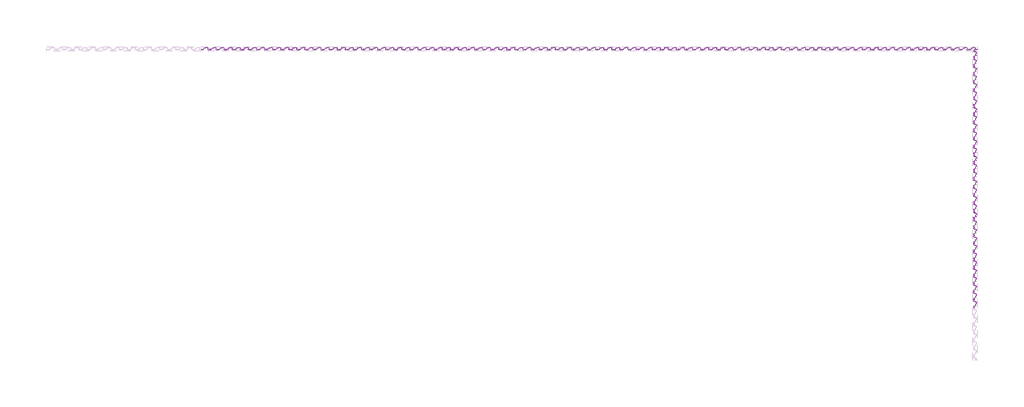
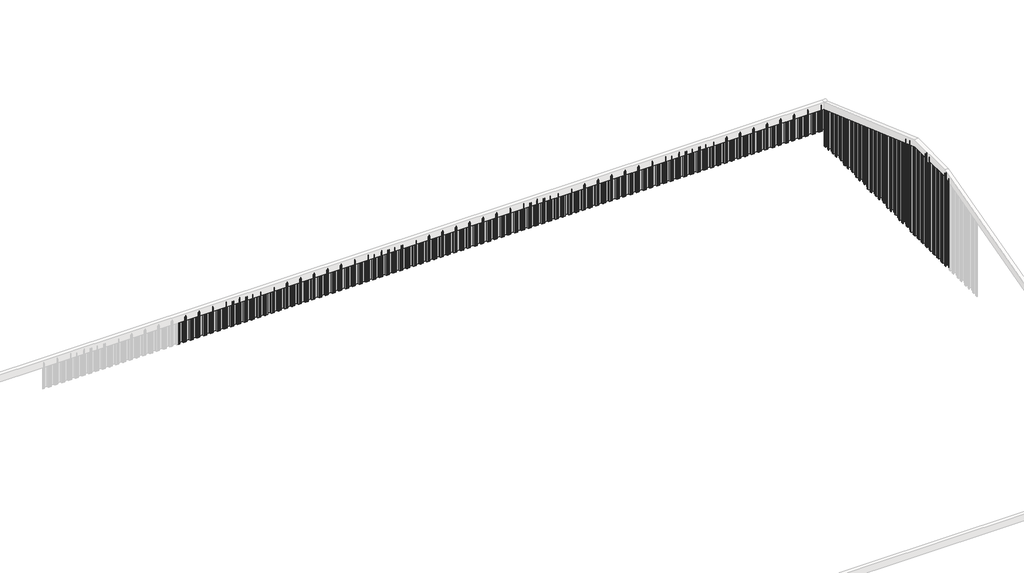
# One storey, part 6 of 6: 128 proxies.
"""IFC4 building model written with IfcOpenShell, lengths in millimetres."""

from ifc_helpers import new_model, si_unit, origin, place, context, project, spatial, transform, mapped, element, save
from components import generic_models_7553901d, generic_models_a74f638f, generic_models_eddb28b0, generic_models_b851e550, generic_models_f981eec5, generic_models_fa2cd2e8, generic_models_5c6d3e61, generic_models_5d25678b, generic_models_d380ba2e, generic_models_831c492c, generic_models_77be9fe8, generic_models_16d24312, generic_models_3141a809, generic_models_ca3dce07, generic_models_dd665d03, generic_models_896a7e0f

model = new_model("IFC4")

# Units and contexts
model_context = context("Model", 3, world=origin())
ifc_project = project(units=[si_unit("LENGTHUNIT", "METRE", prefix="MILLI")], contexts=[model_context])

# Site, building, storey
site = spatial("IfcSite", under=ifc_project)
building = spatial("IfcBuilding", under=site)
storey = spatial("IfcBuildingStorey", under=building, Name="矢板", Elevation=0.0)

# Proxies
placement = place(None, origin())
generic_models_shape = generic_models_7553901d(model_context)
element("IfcBuildingElementProxy", 1, Name="鋼矢板10H型 : 鋼矢板10H型", ObjectType="鋼矢板10H型 : 鋼矢板10H型", at=placement, inside=storey, context=model_context, shape_type="MappedRepresentation", body=[
    mapped(generic_models_shape, transform((148297.5, 28702.0, 7600.0), x_axis=(1.0, 0.0, 0.0), y_axis=(0.0, 1.0, 0.0), z_axis=(0.0, 0.0, 1.0))),
])
element("IfcBuildingElementProxy", 2, Name="鋼矢板10H型 : 鋼矢板10H型", ObjectType="鋼矢板10H型 : 鋼矢板10H型", at=placement, inside=storey, context=model_context, shape_type="MappedRepresentation", body=[
    mapped(generic_models_shape, transform((147397.5, 28702.0, 7600.0), x_axis=(1.0, 0.0, 0.0), y_axis=(0.0, 1.0, 0.0), z_axis=(0.0, 0.0, 1.0))),
])
element("IfcBuildingElementProxy", 3, Name="鋼矢板10H型 : 鋼矢板10H型", ObjectType="鋼矢板10H型 : 鋼矢板10H型", at=placement, inside=storey, context=model_context, shape_type="MappedRepresentation", body=[
    mapped(generic_models_shape, transform((146497.5, 28702.0, 7600.0), x_axis=(1.0, 0.0, 0.0), y_axis=(0.0, 1.0, 0.0), z_axis=(0.0, 0.0, 1.0))),
])
element("IfcBuildingElementProxy", 4, Name="鋼矢板10H型 : 鋼矢板10H型", ObjectType="鋼矢板10H型 : 鋼矢板10H型", at=placement, inside=storey, context=model_context, shape_type="MappedRepresentation", body=[
    mapped(generic_models_shape, transform((145597.5, 28702.0, 7600.0), x_axis=(1.0, 0.0, 0.0), y_axis=(0.0, 1.0, 0.0), z_axis=(0.0, 0.0, 1.0))),
])
element("IfcBuildingElementProxy", 5, Name="鋼矢板10H型 : 鋼矢板10H型", ObjectType="鋼矢板10H型 : 鋼矢板10H型", at=placement, inside=storey, context=model_context, shape_type="MappedRepresentation", body=[
    mapped(generic_models_shape, transform((144697.5, 28702.0, 7600.0), x_axis=(1.0, 0.0, 0.0), y_axis=(0.0, 1.0, 0.0), z_axis=(0.0, 0.0, 1.0))),
])
element("IfcBuildingElementProxy", 6, Name="鋼矢板10H型 : 鋼矢板10H型", ObjectType="鋼矢板10H型 : 鋼矢板10H型", at=placement, inside=storey, context=model_context, shape_type="MappedRepresentation", body=[
    mapped(generic_models_shape, transform((143797.5, 28702.0, 7600.0), x_axis=(1.0, 0.0, 0.0), y_axis=(0.0, 1.0, 0.0), z_axis=(0.0, 0.0, 1.0))),
])
element("IfcBuildingElementProxy", 7, Name="鋼矢板10H型 : 鋼矢板10H型", ObjectType="鋼矢板10H型 : 鋼矢板10H型", at=placement, inside=storey, context=model_context, shape_type="MappedRepresentation", body=[
    mapped(generic_models_shape, transform((142897.5, 28702.0, 7600.0), x_axis=(1.0, 0.0, 0.0), y_axis=(0.0, 1.0, 0.0), z_axis=(0.0, 0.0, 1.0))),
])
element("IfcBuildingElementProxy", 8, Name="鋼矢板10H型 : 鋼矢板10H型", ObjectType="鋼矢板10H型 : 鋼矢板10H型", at=placement, inside=storey, context=model_context, shape_type="MappedRepresentation", body=[
    mapped(generic_models_shape, transform((141997.5, 28702.0, 7600.0), x_axis=(1.0, 0.0, 0.0), y_axis=(0.0, 1.0, 0.0), z_axis=(0.0, 0.0, 1.0))),
])
element("IfcBuildingElementProxy", 9, Name="鋼矢板10H型 : 鋼矢板10H型", ObjectType="鋼矢板10H型 : 鋼矢板10H型", at=placement, inside=storey, context=model_context, shape_type="MappedRepresentation", body=[
    mapped(generic_models_shape, transform((141097.5, 28702.0, 7600.0), x_axis=(1.0, 0.0, 0.0), y_axis=(0.0, 1.0, 0.0), z_axis=(0.0, 0.0, 1.0))),
])
element("IfcBuildingElementProxy", 10, Name="鋼矢板10H型 : 鋼矢板10H型", ObjectType="鋼矢板10H型 : 鋼矢板10H型", at=placement, inside=storey, context=model_context, shape_type="MappedRepresentation", body=[
    mapped(generic_models_shape, transform((140197.5, 28702.0, 7600.0), x_axis=(1.0, 0.0, 0.0), y_axis=(0.0, 1.0, 0.0), z_axis=(0.0, 0.0, 1.0))),
])
element("IfcBuildingElementProxy", 11, Name="鋼矢板10H型 : 鋼矢板10H型", ObjectType="鋼矢板10H型 : 鋼矢板10H型", at=placement, inside=storey, context=model_context, shape_type="MappedRepresentation", body=[
    mapped(generic_models_shape, transform((139297.5, 28702.0, 7600.0), x_axis=(1.0, 0.0, 0.0), y_axis=(0.0, 1.0, 0.0), z_axis=(0.0, 0.0, 1.0))),
])
element("IfcBuildingElementProxy", 12, Name="鋼矢板10H型 : 鋼矢板10H型", ObjectType="鋼矢板10H型 : 鋼矢板10H型", at=placement, inside=storey, context=model_context, shape_type="MappedRepresentation", body=[
    mapped(generic_models_shape, transform((138397.5, 28702.0, 7600.0), x_axis=(1.0, 0.0, 0.0), y_axis=(0.0, 1.0, 0.0), z_axis=(0.0, 0.0, 1.0))),
])
element("IfcBuildingElementProxy", 13, Name="鋼矢板10H型 : 鋼矢板10H型", ObjectType="鋼矢板10H型 : 鋼矢板10H型", at=placement, inside=storey, context=model_context, shape_type="MappedRepresentation", body=[
    mapped(generic_models_shape, transform((137497.5, 28702.0, 7600.0), x_axis=(1.0, 0.0, 0.0), y_axis=(0.0, 1.0, 0.0), z_axis=(0.0, 0.0, 1.0))),
])
element("IfcBuildingElementProxy", 14, Name="鋼矢板10H型 : 鋼矢板10H型", ObjectType="鋼矢板10H型 : 鋼矢板10H型", at=placement, inside=storey, context=model_context, shape_type="MappedRepresentation", body=[
    mapped(generic_models_shape, transform((136597.5, 28702.0, 7600.0), x_axis=(1.0, 0.0, 0.0), y_axis=(0.0, 1.0, 0.0), z_axis=(0.0, 0.0, 1.0))),
])
element("IfcBuildingElementProxy", 15, Name="鋼矢板10H型 : 鋼矢板10H型", ObjectType="鋼矢板10H型 : 鋼矢板10H型", at=placement, inside=storey, context=model_context, shape_type="MappedRepresentation", body=[
    mapped(generic_models_shape, transform((135697.5, 28702.0, 7600.0), x_axis=(1.0, 0.0, 0.0), y_axis=(0.0, 1.0, 0.0), z_axis=(0.0, 0.0, 1.0))),
])
element("IfcBuildingElementProxy", 16, Name="鋼矢板10H型 : 鋼矢板10H型", ObjectType="鋼矢板10H型 : 鋼矢板10H型", at=placement, inside=storey, context=model_context, shape_type="MappedRepresentation", body=[
    mapped(generic_models_shape, transform((134797.5, 28702.0, 7600.0), x_axis=(1.0, 0.0, 0.0), y_axis=(0.0, 1.0, 0.0), z_axis=(0.0, 0.0, 1.0))),
])
element("IfcBuildingElementProxy", 17, Name="鋼矢板10H型 : 鋼矢板10H型", ObjectType="鋼矢板10H型 : 鋼矢板10H型", at=placement, inside=storey, context=model_context, shape_type="MappedRepresentation", body=[
    mapped(generic_models_shape, transform((133897.5, 28702.0, 7600.0), x_axis=(1.0, 0.0, 0.0), y_axis=(0.0, 1.0, 0.0), z_axis=(0.0, 0.0, 1.0))),
])
element("IfcBuildingElementProxy", 18, Name="鋼矢板10H型 : 鋼矢板10H型", ObjectType="鋼矢板10H型 : 鋼矢板10H型", at=placement, inside=storey, context=model_context, shape_type="MappedRepresentation", body=[
    mapped(generic_models_shape, transform((132997.5, 28702.0, 7600.0), x_axis=(1.0, 0.0, 0.0), y_axis=(0.0, 1.0, 0.0), z_axis=(0.0, 0.0, 1.0))),
])
element("IfcBuildingElementProxy", 19, Name="鋼矢板10H型 : 鋼矢板10H型", ObjectType="鋼矢板10H型 : 鋼矢板10H型", at=placement, inside=storey, context=model_context, shape_type="MappedRepresentation", body=[
    mapped(generic_models_shape, transform((132097.5, 28702.0, 7600.0), x_axis=(1.0, 0.0, 0.0), y_axis=(0.0, 1.0, 0.0), z_axis=(0.0, 0.0, 1.0))),
])
element("IfcBuildingElementProxy", 20, Name="鋼矢板10H型 : 鋼矢板10H型", ObjectType="鋼矢板10H型 : 鋼矢板10H型", at=placement, inside=storey, context=model_context, shape_type="MappedRepresentation", body=[
    mapped(generic_models_shape, transform((131197.5, 28702.0, 7600.0), x_axis=(1.0, 0.0, 0.0), y_axis=(0.0, 1.0, 0.0), z_axis=(0.0, 0.0, 1.0))),
])
element("IfcBuildingElementProxy", 21, Name="鋼矢板10H型 : 鋼矢板10H型", ObjectType="鋼矢板10H型 : 鋼矢板10H型", at=placement, inside=storey, context=model_context, shape_type="MappedRepresentation", body=[
    mapped(generic_models_shape, transform((130297.5, 28702.0, 7600.0), x_axis=(1.0, 0.0, 0.0), y_axis=(0.0, 1.0, 0.0), z_axis=(0.0, 0.0, 1.0))),
])
element("IfcBuildingElementProxy", 22, Name="鋼矢板10H型 : 鋼矢板10H型", ObjectType="鋼矢板10H型 : 鋼矢板10H型", at=placement, inside=storey, context=model_context, shape_type="MappedRepresentation", body=[
    mapped(generic_models_shape, transform((129397.5, 28702.0, 7600.0), x_axis=(1.0, 0.0, 0.0), y_axis=(0.0, 1.0, 0.0), z_axis=(0.0, 0.0, 1.0))),
])
element("IfcBuildingElementProxy", 23, Name="鋼矢板10H型 : 鋼矢板10H型", ObjectType="鋼矢板10H型 : 鋼矢板10H型", at=placement, inside=storey, context=model_context, shape_type="MappedRepresentation", body=[
    mapped(generic_models_shape, transform((128497.5, 28702.0, 7600.0), x_axis=(1.0, 0.0, 0.0), y_axis=(0.0, 1.0, 0.0), z_axis=(0.0, 0.0, 1.0))),
])
element("IfcBuildingElementProxy", 24, Name="鋼矢板10H型 : 鋼矢板10H型", ObjectType="鋼矢板10H型 : 鋼矢板10H型", at=placement, inside=storey, context=model_context, shape_type="MappedRepresentation", body=[
    mapped(generic_models_shape, transform((127597.5, 28702.0, 7600.0), x_axis=(1.0, 0.0, 0.0), y_axis=(0.0, 1.0, 0.0), z_axis=(0.0, 0.0, 1.0))),
])
element("IfcBuildingElementProxy", 25, Name="鋼矢板10H型 : 鋼矢板10H型", ObjectType="鋼矢板10H型 : 鋼矢板10H型", at=placement, inside=storey, context=model_context, shape_type="MappedRepresentation", body=[
    mapped(generic_models_shape, transform((126697.5, 28702.0, 7600.0), x_axis=(1.0, 0.0, 0.0), y_axis=(0.0, 1.0, 0.0), z_axis=(0.0, 0.0, 1.0))),
])
element("IfcBuildingElementProxy", 26, Name="鋼矢板10H型 : 鋼矢板10H型", ObjectType="鋼矢板10H型 : 鋼矢板10H型", at=placement, inside=storey, context=model_context, shape_type="MappedRepresentation", body=[
    mapped(generic_models_shape, transform((125797.5, 28702.0, 7600.0), x_axis=(1.0, 0.0, 0.0), y_axis=(0.0, 1.0, 0.0), z_axis=(0.0, 0.0, 1.0))),
])
element("IfcBuildingElementProxy", 27, Name="鋼矢板10H型 : 鋼矢板10H型", ObjectType="鋼矢板10H型 : 鋼矢板10H型", at=placement, inside=storey, context=model_context, shape_type="MappedRepresentation", body=[
    mapped(generic_models_shape, transform((124897.5, 28702.0, 7600.0), x_axis=(1.0, 0.0, 0.0), y_axis=(0.0, 1.0, 0.0), z_axis=(0.0, 0.0, 1.0))),
])
element("IfcBuildingElementProxy", 28, Name="鋼矢板10H型 : 鋼矢板10H型", ObjectType="鋼矢板10H型 : 鋼矢板10H型", at=placement, inside=storey, context=model_context, shape_type="MappedRepresentation", body=[
    mapped(generic_models_shape, transform((123997.5, 28702.0, 7600.0), x_axis=(1.0, 0.0, 0.0), y_axis=(0.0, 1.0, 0.0), z_axis=(0.0, 0.0, 1.0))),
])
element("IfcBuildingElementProxy", 29, Name="鋼矢板10H型 : 鋼矢板10H型", ObjectType="鋼矢板10H型 : 鋼矢板10H型", at=placement, inside=storey, context=model_context, shape_type="MappedRepresentation", body=[
    mapped(generic_models_shape, transform((123097.5, 28702.0, 7600.0), x_axis=(1.0, 0.0, 0.0), y_axis=(0.0, 1.0, 0.0), z_axis=(0.0, 0.0, 1.0))),
])
element("IfcBuildingElementProxy", 30, Name="鋼矢板10H型 : 鋼矢板10H型", ObjectType="鋼矢板10H型 : 鋼矢板10H型", at=placement, inside=storey, context=model_context, shape_type="MappedRepresentation", body=[
    mapped(generic_models_shape, transform((122197.5, 28702.0, 7600.0), x_axis=(1.0, 0.0, 0.0), y_axis=(0.0, 1.0, 0.0), z_axis=(0.0, 0.0, 1.0))),
])
element("IfcBuildingElementProxy", 31, Name="鋼矢板10H型 : 鋼矢板10H型", ObjectType="鋼矢板10H型 : 鋼矢板10H型", at=placement, inside=storey, context=model_context, shape_type="MappedRepresentation", body=[
    mapped(generic_models_shape, transform((121297.5, 28702.0, 7600.0), x_axis=(1.0, 0.0, 0.0), y_axis=(0.0, 1.0, 0.0), z_axis=(0.0, 0.0, 1.0))),
])
element("IfcBuildingElementProxy", 32, Name="鋼矢板10H型 : 鋼矢板10H型", ObjectType="鋼矢板10H型 : 鋼矢板10H型", at=placement, inside=storey, context=model_context, shape_type="MappedRepresentation", body=[
    mapped(generic_models_shape, transform((120397.5, 28702.0, 7600.0), x_axis=(1.0, 0.0, 0.0), y_axis=(0.0, 1.0, 0.0), z_axis=(0.0, 0.0, 1.0))),
])
element("IfcBuildingElementProxy", 33, Name="鋼矢板10H型 : 鋼矢板10H型", ObjectType="鋼矢板10H型 : 鋼矢板10H型", at=placement, inside=storey, context=model_context, shape_type="MappedRepresentation", body=[
    mapped(generic_models_shape, transform((119497.5, 28702.0, 7600.0), x_axis=(1.0, 0.0, 0.0), y_axis=(0.0, 1.0, 0.0), z_axis=(0.0, 0.0, 1.0))),
])
element("IfcBuildingElementProxy", 34, Name="鋼矢板10H型 : 鋼矢板10H型", ObjectType="鋼矢板10H型 : 鋼矢板10H型", at=placement, inside=storey, context=model_context, shape_type="MappedRepresentation", body=[
    mapped(generic_models_shape, transform((118597.5, 28702.0, 7600.0), x_axis=(1.0, 0.0, 0.0), y_axis=(0.0, 1.0, 0.0), z_axis=(0.0, 0.0, 1.0))),
])
element("IfcBuildingElementProxy", 35, Name="鋼矢板10H型 : 鋼矢板10H型", ObjectType="鋼矢板10H型 : 鋼矢板10H型", at=placement, inside=storey, context=model_context, shape_type="MappedRepresentation", body=[
    mapped(generic_models_shape, transform((117697.5, 28702.0, 7600.0), x_axis=(1.0, 0.0, 0.0), y_axis=(0.0, 1.0, 0.0), z_axis=(0.0, 0.0, 1.0))),
])
element("IfcBuildingElementProxy", 36, Name="鋼矢板10H型 : 鋼矢板10H型", ObjectType="鋼矢板10H型 : 鋼矢板10H型", at=placement, inside=storey, context=model_context, shape_type="MappedRepresentation", body=[
    mapped(generic_models_shape, transform((116797.5, 28702.0, 7600.0), x_axis=(1.0, 0.0, 0.0), y_axis=(0.0, 1.0, 0.0), z_axis=(0.0, 0.0, 1.0))),
])
element("IfcBuildingElementProxy", 37, Name="鋼矢板10H型 : 鋼矢板10H型", ObjectType="鋼矢板10H型 : 鋼矢板10H型", at=placement, inside=storey, context=model_context, shape_type="MappedRepresentation", body=[
    mapped(generic_models_shape, transform((115897.5, 28702.0, 7600.0), x_axis=(1.0, 0.0, 0.0), y_axis=(0.0, 1.0, 0.0), z_axis=(0.0, 0.0, 1.0))),
])
element("IfcBuildingElementProxy", 38, Name="鋼矢板10H型 : 鋼矢板10H型", ObjectType="鋼矢板10H型 : 鋼矢板10H型", at=placement, inside=storey, context=model_context, shape_type="MappedRepresentation", body=[
    mapped(generic_models_shape, transform((114997.5, 28702.0, 7600.0), x_axis=(1.0, 0.0, 0.0), y_axis=(0.0, 1.0, 0.0), z_axis=(0.0, 0.0, 1.0))),
])
element("IfcBuildingElementProxy", 39, Name="鋼矢板10H型 : 鋼矢板10H型", ObjectType="鋼矢板10H型 : 鋼矢板10H型", at=placement, inside=storey, context=model_context, shape_type="MappedRepresentation", body=[
    mapped(generic_models_shape, transform((114097.5, 28702.0, 7600.0), x_axis=(1.0, 0.0, 0.0), y_axis=(0.0, 1.0, 0.0), z_axis=(0.0, 0.0, 1.0))),
])
element("IfcBuildingElementProxy", 40, Name="鋼矢板10H型 : 鋼矢板10H型", ObjectType="鋼矢板10H型 : 鋼矢板10H型", at=placement, inside=storey, context=model_context, shape_type="MappedRepresentation", body=[
    mapped(generic_models_shape, transform((113197.5, 28702.0, 7600.0), x_axis=(1.0, 0.0, 0.0), y_axis=(0.0, 1.0, 0.0), z_axis=(0.0, 0.0, 1.0))),
])
element("IfcBuildingElementProxy", 41, Name="鋼矢板10H型 : 鋼矢板10H型", ObjectType="鋼矢板10H型 : 鋼矢板10H型", at=placement, inside=storey, context=model_context, shape_type="MappedRepresentation", body=[
    mapped(generic_models_shape, transform((112297.5, 28702.0, 7600.0), x_axis=(1.0, 0.0, 0.0), y_axis=(0.0, 1.0, 0.0), z_axis=(0.0, 0.0, 1.0))),
])
element("IfcBuildingElementProxy", 42, Name="鋼矢板10H型 : 鋼矢板10H型", ObjectType="鋼矢板10H型 : 鋼矢板10H型", at=placement, inside=storey, context=model_context, shape_type="MappedRepresentation", body=[
    mapped(generic_models_shape, transform((111397.5, 28702.0, 7600.0), x_axis=(1.0, 0.0, 0.0), y_axis=(0.0, 1.0, 0.0), z_axis=(0.0, 0.0, 1.0))),
])
element("IfcBuildingElementProxy", 43, Name="鋼矢板10H型 : 鋼矢板10H型", ObjectType="鋼矢板10H型 : 鋼矢板10H型", at=placement, inside=storey, context=model_context, shape_type="MappedRepresentation", body=[
    mapped(generic_models_shape, transform((110497.5, 28702.0, 7600.0), x_axis=(1.0, 0.0, 0.0), y_axis=(0.0, 1.0, 0.0), z_axis=(0.0, 0.0, 1.0))),
])
element("IfcBuildingElementProxy", 44, Name="鋼矢板10H型 : 鋼矢板10H型", ObjectType="鋼矢板10H型 : 鋼矢板10H型", at=placement, inside=storey, context=model_context, shape_type="MappedRepresentation", body=[
    mapped(generic_models_shape, transform((109597.5, 28702.0, 7600.0), x_axis=(1.0, 0.0, 0.0), y_axis=(0.0, 1.0, 0.0), z_axis=(0.0, 0.0, 1.0))),
])
element("IfcBuildingElementProxy", 45, Name="鋼矢板10H型 : 鋼矢板10H型", ObjectType="鋼矢板10H型 : 鋼矢板10H型", at=placement, inside=storey, context=model_context, shape_type="MappedRepresentation", body=[
    mapped(generic_models_shape, transform((108697.5, 28702.0, 7600.0), x_axis=(1.0, 0.0, 0.0), y_axis=(0.0, 1.0, 0.0), z_axis=(0.0, 0.0, 1.0))),
])
element("IfcBuildingElementProxy", 46, Name="鋼矢板10H型 : 鋼矢板10H型", ObjectType="鋼矢板10H型 : 鋼矢板10H型", at=placement, inside=storey, context=model_context, shape_type="MappedRepresentation", body=[
    mapped(generic_models_shape, transform((107797.5, 28702.0, 7600.0), x_axis=(1.0, 0.0, 0.0), y_axis=(0.0, 1.0, 0.0), z_axis=(0.0, 0.0, 1.0))),
])
element("IfcBuildingElementProxy", 47, Name="鋼矢板10H型 : 鋼矢板10H型", ObjectType="鋼矢板10H型 : 鋼矢板10H型", at=placement, inside=storey, context=model_context, shape_type="MappedRepresentation", body=[
    mapped(generic_models_shape, transform((106897.5, 28702.0, 7600.0), x_axis=(1.0, 0.0, 0.0), y_axis=(0.0, 1.0, 0.0), z_axis=(0.0, 0.0, 1.0))),
])
element("IfcBuildingElementProxy", 48, Name="鋼矢板10H型 : 鋼矢板10H型", ObjectType="鋼矢板10H型 : 鋼矢板10H型", at=placement, inside=storey, context=model_context, shape_type="MappedRepresentation", body=[
    mapped(generic_models_shape, transform((105997.5, 28702.0, 7600.0), x_axis=(1.0, 0.0, 0.0), y_axis=(0.0, 1.0, 0.0), z_axis=(0.0, 0.0, 1.0))),
])
element("IfcBuildingElementProxy", 49, Name="鋼矢板10H型 : 鋼矢板10H型", ObjectType="鋼矢板10H型 : 鋼矢板10H型", at=placement, inside=storey, context=model_context, shape_type="MappedRepresentation", body=[
    mapped(generic_models_shape, transform((105097.5, 28702.0, 7600.0), x_axis=(1.0, 0.0, 0.0), y_axis=(0.0, 1.0, 0.0), z_axis=(0.0, 0.0, 1.0))),
])
element("IfcBuildingElementProxy", 50, Name="鋼矢板10H型 : 鋼矢板10H型", ObjectType="鋼矢板10H型 : 鋼矢板10H型", at=placement, inside=storey, context=model_context, shape_type="MappedRepresentation", body=[
    mapped(generic_models_shape, transform((104197.5, 28702.0, 7600.0), x_axis=(1.0, 0.0, 0.0), y_axis=(0.0, 1.0, 0.0), z_axis=(0.0, 0.0, 1.0))),
])
element("IfcBuildingElementProxy", 51, Name="鋼矢板10H型 : 鋼矢板10H型", ObjectType="鋼矢板10H型 : 鋼矢板10H型", at=placement, inside=storey, context=model_context, shape_type="MappedRepresentation", body=[
    mapped(generic_models_shape, transform((103297.5, 28702.0, 7600.0), x_axis=(1.0, 0.0, 0.0), y_axis=(0.0, 1.0, 0.0), z_axis=(0.0, 0.0, 1.0))),
])
element("IfcBuildingElementProxy", 52, Name="鋼矢板10H型 : 鋼矢板10H型", ObjectType="鋼矢板10H型 : 鋼矢板10H型", at=placement, inside=storey, context=model_context, shape_type="MappedRepresentation", body=[
    mapped(generic_models_shape, transform((102397.5, 28702.0, 7600.0), x_axis=(1.0, 0.0, 0.0), y_axis=(0.0, 1.0, 0.0), z_axis=(0.0, 0.0, 1.0))),
])
element("IfcBuildingElementProxy", 53, Name="鋼矢板10H型 : 鋼矢板10H型", ObjectType="鋼矢板10H型 : 鋼矢板10H型", at=placement, inside=storey, context=model_context, shape_type="MappedRepresentation", body=[
    mapped(generic_models_shape, transform((101497.5, 28702.0, 7600.0), x_axis=(1.0, 0.0, 0.0), y_axis=(0.0, 1.0, 0.0), z_axis=(0.0, 0.0, 1.0))),
])
element("IfcBuildingElementProxy", 54, Name="鋼矢板10H型 : 鋼矢板10H型", ObjectType="鋼矢板10H型 : 鋼矢板10H型", at=placement, inside=storey, context=model_context, shape_type="MappedRepresentation", body=[
    mapped(generic_models_shape, transform((100597.5, 28702.0, 7600.0), x_axis=(1.0, 0.0, 0.0), y_axis=(0.0, 1.0, 0.0), z_axis=(0.0, 0.0, 1.0))),
])
element("IfcBuildingElementProxy", 55, Name="鋼矢板10H型 : 鋼矢板10H型", ObjectType="鋼矢板10H型 : 鋼矢板10H型", at=placement, inside=storey, context=model_context, shape_type="MappedRepresentation", body=[
    mapped(generic_models_shape, transform((99697.5, 28702.0, 7600.0), x_axis=(1.0, 0.0, 0.0), y_axis=(0.0, 1.0, 0.0), z_axis=(0.0, 0.0, 1.0))),
])
element("IfcBuildingElementProxy", 56, Name="鋼矢板10H型 : 鋼矢板10H型", ObjectType="鋼矢板10H型 : 鋼矢板10H型", at=placement, inside=storey, context=model_context, shape_type="MappedRepresentation", body=[
    mapped(generic_models_shape, transform((98797.5, 28702.0, 7600.0), x_axis=(1.0, 0.0, 0.0), y_axis=(0.0, 1.0, 0.0), z_axis=(0.0, 0.0, 1.0))),
])
element("IfcBuildingElementProxy", 57, Name="鋼矢板10H型 : 鋼矢板10H型", ObjectType="鋼矢板10H型 : 鋼矢板10H型", at=placement, inside=storey, context=model_context, shape_type="MappedRepresentation", body=[
    mapped(generic_models_shape, transform((97897.5, 28702.0, 7600.0), x_axis=(1.0, 0.0, 0.0), y_axis=(0.0, 1.0, 0.0), z_axis=(0.0, 0.0, 1.0))),
])
element("IfcBuildingElementProxy", 58, Name="鋼矢板10H型 : 鋼矢板10H型", ObjectType="鋼矢板10H型 : 鋼矢板10H型", at=placement, inside=storey, context=model_context, shape_type="MappedRepresentation", body=[
    mapped(generic_models_shape, transform((96997.5, 28702.0, 7600.0), x_axis=(1.0, 0.0, 0.0), y_axis=(0.0, 1.0, 0.0), z_axis=(0.0, 0.0, 1.0))),
])
element("IfcBuildingElementProxy", 59, Name="鋼矢板10H型 : 鋼矢板10H型", ObjectType="鋼矢板10H型 : 鋼矢板10H型", at=placement, inside=storey, context=model_context, shape_type="MappedRepresentation", body=[
    mapped(generic_models_shape, transform((96097.5, 28702.0, 7600.0), x_axis=(1.0, 0.0, 0.0), y_axis=(0.0, 1.0, 0.0), z_axis=(0.0, 0.0, 1.0))),
])
element("IfcBuildingElementProxy", 60, Name="鋼矢板10H型 : 鋼矢板10H型", ObjectType="鋼矢板10H型 : 鋼矢板10H型", at=placement, inside=storey, context=model_context, shape_type="MappedRepresentation", body=[
    mapped(generic_models_shape, transform((95197.5, 28702.0, 7600.0), x_axis=(1.0, 0.0, 0.0), y_axis=(0.0, 1.0, 0.0), z_axis=(0.0, 0.0, 1.0))),
])
element("IfcBuildingElementProxy", 61, Name="鋼矢板10H型 : 鋼矢板10H型", ObjectType="鋼矢板10H型 : 鋼矢板10H型", at=placement, inside=storey, context=model_context, shape_type="MappedRepresentation", body=[
    mapped(generic_models_shape, transform((94297.5, 28702.0, 7600.0), x_axis=(1.0, 0.0, 0.0), y_axis=(0.0, 1.0, 0.0), z_axis=(0.0, 0.0, 1.0))),
])
element("IfcBuildingElementProxy", 62, Name="鋼矢板10H型 : 鋼矢板10H型", ObjectType="鋼矢板10H型 : 鋼矢板10H型", at=placement, inside=storey, context=model_context, shape_type="MappedRepresentation", body=[
    mapped(generic_models_shape, transform((93397.5, 28702.0, 7600.0), x_axis=(1.0, 0.0, 0.0), y_axis=(0.0, 1.0, 0.0), z_axis=(0.0, 0.0, 1.0))),
])
element("IfcBuildingElementProxy", 63, Name="鋼矢板10H型 : 鋼矢板10H型", ObjectType="鋼矢板10H型 : 鋼矢板10H型", at=placement, inside=storey, context=model_context, shape_type="MappedRepresentation", body=[
    mapped(generic_models_shape, transform((92497.5, 28702.0, 7600.0), x_axis=(1.0, 0.0, 0.0), y_axis=(0.0, 1.0, 0.0), z_axis=(0.0, 0.0, 1.0))),
])
element("IfcBuildingElementProxy", 64, Name="鋼矢板10H型 : 鋼矢板10H型", ObjectType="鋼矢板10H型 : 鋼矢板10H型", at=placement, inside=storey, context=model_context, shape_type="MappedRepresentation", body=[
    mapped(generic_models_shape, transform((91597.5, 28702.0, 7600.0), x_axis=(1.0, 0.0, 0.0), y_axis=(0.0, 1.0, 0.0), z_axis=(0.0, 0.0, 1.0))),
])
element("IfcBuildingElementProxy", 65, Name="鋼矢板10H型 : 鋼矢板10H型", ObjectType="鋼矢板10H型 : 鋼矢板10H型", at=placement, inside=storey, context=model_context, shape_type="MappedRepresentation", body=[
    mapped(generic_models_shape, transform((90697.5, 28702.0, 7600.0), x_axis=(1.0, 0.0, 0.0), y_axis=(0.0, 1.0, 0.0), z_axis=(0.0, 0.0, 1.0))),
])
element("IfcBuildingElementProxy", 66, Name="鋼矢板10H型 : 鋼矢板10H型", ObjectType="鋼矢板10H型 : 鋼矢板10H型", at=placement, inside=storey, context=model_context, shape_type="MappedRepresentation", body=[
    mapped(generic_models_shape, transform((89797.5, 28702.0, 7600.0), x_axis=(1.0, 0.0, 0.0), y_axis=(0.0, 1.0, 0.0), z_axis=(0.0, 0.0, 1.0))),
])
element("IfcBuildingElementProxy", 67, Name="鋼矢板10H型 : 鋼矢板10H型", ObjectType="鋼矢板10H型 : 鋼矢板10H型", at=placement, inside=storey, context=model_context, shape_type="MappedRepresentation", body=[
    mapped(generic_models_shape, transform((88897.5, 28702.0, 7600.0), x_axis=(1.0, 0.0, 0.0), y_axis=(0.0, 1.0, 0.0), z_axis=(0.0, 0.0, 1.0))),
])
element("IfcBuildingElementProxy", 68, Name="鋼矢板10H型 : 鋼矢板10H型", ObjectType="鋼矢板10H型 : 鋼矢板10H型", at=placement, inside=storey, context=model_context, shape_type="MappedRepresentation", body=[
    mapped(generic_models_shape, transform((87997.5, 28702.0, 7600.0), x_axis=(1.0, 0.0, 0.0), y_axis=(0.0, 1.0, 0.0), z_axis=(0.0, 0.0, 1.0))),
])
element("IfcBuildingElementProxy", 69, Name="鋼矢板10H型 : 鋼矢板10H型", ObjectType="鋼矢板10H型 : 鋼矢板10H型", at=placement, inside=storey, context=model_context, shape_type="MappedRepresentation", body=[
    mapped(generic_models_shape, transform((87097.5, 28702.0, 7600.0), x_axis=(1.0, 0.0, 0.0), y_axis=(0.0, 1.0, 0.0), z_axis=(0.0, 0.0, 1.0))),
])
element("IfcBuildingElementProxy", 70, Name="鋼矢板10H型 : 鋼矢板10H型", ObjectType="鋼矢板10H型 : 鋼矢板10H型", at=placement, inside=storey, context=model_context, shape_type="MappedRepresentation", body=[
    mapped(generic_models_shape, transform((86197.5, 28702.0, 7600.0), x_axis=(1.0, 0.0, 0.0), y_axis=(0.0, 1.0, 0.0), z_axis=(0.0, 0.0, 1.0))),
])
element("IfcBuildingElementProxy", 71, Name="鋼矢板10H型 : 鋼矢板10H型", ObjectType="鋼矢板10H型 : 鋼矢板10H型", at=placement, inside=storey, context=model_context, shape_type="MappedRepresentation", body=[
    mapped(generic_models_shape, transform((85297.5, 28702.0, 7600.0), x_axis=(1.0, 0.0, 0.0), y_axis=(0.0, 1.0, 0.0), z_axis=(0.0, 0.0, 1.0))),
])
element("IfcBuildingElementProxy", 72, Name="鋼矢板10H型 : 鋼矢板10H型", ObjectType="鋼矢板10H型 : 鋼矢板10H型", at=placement, inside=storey, context=model_context, shape_type="MappedRepresentation", body=[
    mapped(generic_models_shape, transform((84397.5, 28702.0, 7600.0), x_axis=(1.0, 0.0, 0.0), y_axis=(0.0, 1.0, 0.0), z_axis=(0.0, 0.0, 1.0))),
])
element("IfcBuildingElementProxy", 73, Name="鋼矢板10H型 : 鋼矢板10H型", ObjectType="鋼矢板10H型 : 鋼矢板10H型", at=placement, inside=storey, context=model_context, shape_type="MappedRepresentation", body=[
    mapped(generic_models_shape, transform((83497.5, 28702.0, 7600.0), x_axis=(1.0, 0.0, 0.0), y_axis=(0.0, 1.0, 0.0), z_axis=(0.0, 0.0, 1.0))),
])
element("IfcBuildingElementProxy", 74, Name="鋼矢板10H型 : 鋼矢板10H型", ObjectType="鋼矢板10H型 : 鋼矢板10H型", at=placement, inside=storey, context=model_context, shape_type="MappedRepresentation", body=[
    mapped(generic_models_shape, transform((82597.5, 28702.0, 7600.0), x_axis=(1.0, 0.0, 0.0), y_axis=(0.0, 1.0, 0.0), z_axis=(0.0, 0.0, 1.0))),
])
element("IfcBuildingElementProxy", 75, Name="鋼矢板10H型 : 鋼矢板10H型", ObjectType="鋼矢板10H型 : 鋼矢板10H型", at=placement, inside=storey, context=model_context, shape_type="MappedRepresentation", body=[
    mapped(generic_models_shape, transform((81697.5, 28702.0, 7600.0), x_axis=(1.0, 0.0, 0.0), y_axis=(0.0, 1.0, 0.0), z_axis=(0.0, 0.0, 1.0))),
])
element("IfcBuildingElementProxy", 76, Name="鋼矢板10H型 : 鋼矢板10H型", ObjectType="鋼矢板10H型 : 鋼矢板10H型", at=placement, inside=storey, context=model_context, shape_type="MappedRepresentation", body=[
    mapped(generic_models_shape, transform((80797.5, 28702.0, 7600.0), x_axis=(1.0, 0.0, 0.0), y_axis=(0.0, 1.0, 0.0), z_axis=(0.0, 0.0, 1.0))),
])
element("IfcBuildingElementProxy", 77, Name="鋼矢板10H型 : 鋼矢板10H型", ObjectType="鋼矢板10H型 : 鋼矢板10H型", at=placement, inside=storey, context=model_context, shape_type="MappedRepresentation", body=[
    mapped(generic_models_shape, transform((79897.5, 28702.0, 7600.0), x_axis=(1.0, 0.0, 0.0), y_axis=(0.0, 1.0, 0.0), z_axis=(0.0, 0.0, 1.0))),
])
element("IfcBuildingElementProxy", 78, Name="鋼矢板10H型 : 鋼矢板10H型", ObjectType="鋼矢板10H型 : 鋼矢板10H型", at=placement, inside=storey, context=model_context, shape_type="MappedRepresentation", body=[
    mapped(generic_models_shape, transform((78997.5, 28702.0, 7600.0), x_axis=(1.0, 0.0, 0.0), y_axis=(0.0, 1.0, 0.0), z_axis=(0.0, 0.0, 1.0))),
])
element("IfcBuildingElementProxy", 79, Name="鋼矢板10H型 : 鋼矢板10H型", ObjectType="鋼矢板10H型 : 鋼矢板10H型", at=placement, inside=storey, context=model_context, shape_type="MappedRepresentation", body=[
    mapped(generic_models_shape, transform((78097.5, 28702.0, 7600.0), x_axis=(1.0, 0.0, 0.0), y_axis=(0.0, 1.0, 0.0), z_axis=(0.0, 0.0, 1.0))),
])
element("IfcBuildingElementProxy", 80, Name="鋼矢板10H型 : 鋼矢板10H型", ObjectType="鋼矢板10H型 : 鋼矢板10H型", at=placement, inside=storey, context=model_context, shape_type="MappedRepresentation", body=[
    mapped(generic_models_shape, transform((77197.5, 28702.0, 7600.0), x_axis=(1.0, 0.0, 0.0), y_axis=(0.0, 1.0, 0.0), z_axis=(0.0, 0.0, 1.0))),
])
element("IfcBuildingElementProxy", 81, Name="鋼矢板10H型 : 鋼矢板10H型", ObjectType="鋼矢板10H型 : 鋼矢板10H型", at=placement, inside=storey, context=model_context, shape_type="MappedRepresentation", body=[
    mapped(generic_models_shape, transform((76297.5, 28702.0, 7600.0), x_axis=(1.0, 0.0, 0.0), y_axis=(0.0, 1.0, 0.0), z_axis=(0.0, 0.0, 1.0))),
])
element("IfcBuildingElementProxy", 82, Name="鋼矢板10H型 : 鋼矢板10H型", ObjectType="鋼矢板10H型 : 鋼矢板10H型", at=placement, inside=storey, context=model_context, shape_type="MappedRepresentation", body=[
    mapped(generic_models_shape, transform((75397.5, 28702.0, 7600.0), x_axis=(1.0, 0.0, 0.0), y_axis=(0.0, 1.0, 0.0), z_axis=(0.0, 0.0, 1.0))),
])
element("IfcBuildingElementProxy", 83, Name="鋼矢板10H型 : 鋼矢板10H型", ObjectType="鋼矢板10H型 : 鋼矢板10H型", at=placement, inside=storey, context=model_context, shape_type="MappedRepresentation", body=[
    mapped(generic_models_shape, transform((74497.5, 28702.0, 7600.0), x_axis=(1.0, 0.0, 0.0), y_axis=(0.0, 1.0, 0.0), z_axis=(0.0, 0.0, 1.0))),
])
element("IfcBuildingElementProxy", 84, Name="鋼矢板10H型 : 鋼矢板10H型", ObjectType="鋼矢板10H型 : 鋼矢板10H型", at=placement, inside=storey, context=model_context, shape_type="MappedRepresentation", body=[
    mapped(generic_models_shape, transform((73597.5, 28702.0, 7600.0), x_axis=(1.0, 0.0, 0.0), y_axis=(0.0, 1.0, 0.0), z_axis=(0.0, 0.0, 1.0))),
])
element("IfcBuildingElementProxy", 85, Name="鋼矢板10H型 : 鋼矢板10H型", ObjectType="鋼矢板10H型 : 鋼矢板10H型", at=placement, inside=storey, context=model_context, shape_type="MappedRepresentation", body=[
    mapped(generic_models_shape, transform((72697.5, 28702.0, 7600.0), x_axis=(1.0, 0.0, 0.0), y_axis=(0.0, 1.0, 0.0), z_axis=(0.0, 0.0, 1.0))),
])
element("IfcBuildingElementProxy", 86, Name="鋼矢板10H型 : 鋼矢板10H型", ObjectType="鋼矢板10H型 : 鋼矢板10H型", at=placement, inside=storey, context=model_context, shape_type="MappedRepresentation", body=[
    mapped(generic_models_shape, transform((71797.5, 28702.0, 7600.0), x_axis=(1.0, 0.0, 0.0), y_axis=(0.0, 1.0, 0.0), z_axis=(0.0, 0.0, 1.0))),
])
element("IfcBuildingElementProxy", 87, Name="鋼矢板10H型 : 鋼矢板10H型", ObjectType="鋼矢板10H型 : 鋼矢板10H型", at=placement, inside=storey, context=model_context, shape_type="MappedRepresentation", body=[
    mapped(generic_models_shape, transform((70897.5, 28702.0, 7600.0), x_axis=(1.0, 0.0, 0.0), y_axis=(0.0, 1.0, 0.0), z_axis=(0.0, 0.0, 1.0))),
])
element("IfcBuildingElementProxy", 88, Name="鋼矢板10H型 : 鋼矢板10H型", ObjectType="鋼矢板10H型 : 鋼矢板10H型", at=placement, inside=storey, context=model_context, shape_type="MappedRepresentation", body=[
    mapped(generic_models_shape, transform((69997.5, 28702.0, 7600.0), x_axis=(1.0, 0.0, 0.0), y_axis=(0.0, 1.0, 0.0), z_axis=(0.0, 0.0, 1.0))),
])
element("IfcBuildingElementProxy", 89, Name="鋼矢板10H型 : 鋼矢板10H型", ObjectType="鋼矢板10H型 : 鋼矢板10H型", at=placement, inside=storey, context=model_context, shape_type="MappedRepresentation", body=[
    mapped(generic_models_shape, transform((69097.5, 28702.0, 7600.0), x_axis=(1.0, 0.0, 0.0), y_axis=(0.0, 1.0, 0.0), z_axis=(0.0, 0.0, 1.0))),
])
element("IfcBuildingElementProxy", 90, Name="鋼矢板10H型 : 鋼矢板10H型", ObjectType="鋼矢板10H型 : 鋼矢板10H型", at=placement, inside=storey, context=model_context, shape_type="MappedRepresentation", body=[
    mapped(generic_models_shape, transform((68197.5, 28702.0, 7600.0), x_axis=(1.0, 0.0, 0.0), y_axis=(0.0, 1.0, 0.0), z_axis=(0.0, 0.0, 1.0))),
])
element("IfcBuildingElementProxy", 91, Name="鋼矢板10H型 : 鋼矢板10H型", ObjectType="鋼矢板10H型 : 鋼矢板10H型", at=placement, inside=storey, context=model_context, shape_type="MappedRepresentation", body=[
    mapped(generic_models_shape, transform((67297.5, 28702.0, 7600.0), x_axis=(1.0, 0.0, 0.0), y_axis=(0.0, 1.0, 0.0), z_axis=(0.0, 0.0, 1.0))),
])
element("IfcBuildingElementProxy", 92, Name="鋼矢板10H型 : 鋼矢板10H型", ObjectType="鋼矢板10H型 : 鋼矢板10H型", at=placement, inside=storey, context=model_context, shape_type="MappedRepresentation", body=[
    mapped(generic_models_shape, transform((66397.5, 28702.0, 7600.0), x_axis=(1.0, 0.0, 0.0), y_axis=(0.0, 1.0, 0.0), z_axis=(0.0, 0.0, 1.0))),
])
element("IfcBuildingElementProxy", 93, Name="鋼矢板10H型 : 鋼矢板10H型", ObjectType="鋼矢板10H型 : 鋼矢板10H型", at=placement, inside=storey, context=model_context, shape_type="MappedRepresentation", body=[
    mapped(generic_models_shape, transform((65497.5, 28702.0, 7600.0), x_axis=(1.0, 0.0, 0.0), y_axis=(0.0, 1.0, 0.0), z_axis=(0.0, 0.0, 1.0))),
])
element("IfcBuildingElementProxy", 94, Name="鋼矢板10H型 : 鋼矢板10H型", ObjectType="鋼矢板10H型 : 鋼矢板10H型", at=placement, inside=storey, context=model_context, shape_type="MappedRepresentation", body=[
    mapped(generic_models_shape, transform((64597.5, 28702.0, 7600.0), x_axis=(1.0, 0.0, 0.0), y_axis=(0.0, 1.0, 0.0), z_axis=(0.0, 0.0, 1.0))),
])
element("IfcBuildingElementProxy", 95, Name="鋼矢板10H型 : 鋼矢板10H型", ObjectType="鋼矢板10H型 : 鋼矢板10H型", at=placement, inside=storey, context=model_context, shape_type="MappedRepresentation", body=[
    mapped(generic_models_shape, transform((63697.5, 28702.0, 7600.0), x_axis=(1.0, 0.0, 0.0), y_axis=(0.0, 1.0, 0.0), z_axis=(0.0, 0.0, 1.0))),
])
element("IfcBuildingElementProxy", 96, Name="鋼矢板10H型 : 鋼矢板10H型", ObjectType="鋼矢板10H型 : 鋼矢板10H型", at=placement, inside=storey, context=model_context, shape_type="MappedRepresentation", body=[
    mapped(generic_models_shape, transform((62797.5, 28702.0, 7600.0), x_axis=(1.0, 0.0, 0.0), y_axis=(0.0, 1.0, 0.0), z_axis=(0.0, 0.0, 1.0))),
])
generic_models_2_shape = generic_models_a74f638f(model_context)
element("IfcBuildingElementProxy", 97, Name="鋼矢板10H型 : 鋼矢板10H型", ObjectType="鋼矢板10H型 : 鋼矢板10H型", at=placement, inside=storey, context=model_context, shape_type="MappedRepresentation", body=[
    mapped(generic_models_2_shape, transform((148500.0, 8351.0, 14860.0), x_axis=(0.0, -1.0, 0.0), y_axis=(1.0, 0.0, 0.0), z_axis=(0.0, 0.0, 1.0))),
])
element("IfcBuildingElementProxy", 98, Name="鋼矢板10H型 : 鋼矢板10H型", ObjectType="鋼矢板10H型 : 鋼矢板10H型", at=placement, inside=storey, context=model_context, shape_type="MappedRepresentation", body=[
    mapped(generic_models_2_shape, transform((148500.0, 7451.0, 14913.0), x_axis=(0.0, -1.0, 0.0), y_axis=(1.0, 0.0, 0.0), z_axis=(0.0, 0.0, 1.0))),
])
element("IfcBuildingElementProxy", 99, Name="鋼矢板10H型 : 鋼矢板10H型", ObjectType="鋼矢板10H型 : 鋼矢板10H型", at=placement, inside=storey, context=model_context, shape_type="MappedRepresentation", body=[
    mapped(generic_models_2_shape, transform((148500.0, 6551.0, 14913.0), x_axis=(0.0, -1.0, 0.0), y_axis=(1.0, 0.0, 0.0), z_axis=(0.0, 0.0, 1.0))),
])
element("IfcBuildingElementProxy", 100, Name="鋼矢板10H型 : 鋼矢板10H型", ObjectType="鋼矢板10H型 : 鋼矢板10H型", at=placement, inside=storey, context=model_context, shape_type="MappedRepresentation", body=[
    mapped(generic_models_2_shape, transform((148500.0, 5651.0, 14913.0), x_axis=(0.0, -1.0, 0.0), y_axis=(1.0, 0.0, 0.0), z_axis=(0.0, 0.0, 1.0))),
])
element("IfcBuildingElementProxy", 101, Name="鋼矢板10H型 : 鋼矢板10H型", ObjectType="鋼矢板10H型 : 鋼矢板10H型", at=placement, inside=storey, context=model_context, shape_type="MappedRepresentation", body=[
    mapped(generic_models_2_shape, transform((148500.0, 4751.0, 14913.0), x_axis=(0.0, -1.0, 0.0), y_axis=(1.0, 0.0, 0.0), z_axis=(0.0, 0.0, 1.0))),
])
element("IfcBuildingElementProxy", 102, Name="鋼矢板10H型 : 鋼矢板10H型", ObjectType="鋼矢板10H型 : 鋼矢板10H型", at=placement, inside=storey, context=model_context, shape_type="MappedRepresentation", body=[
    mapped(generic_models_2_shape, transform((148500.0, 3851.0, 14913.0), x_axis=(0.0, -1.0, 0.0), y_axis=(1.0, 0.0, 0.0), z_axis=(0.0, 0.0, 1.0))),
])
element("IfcBuildingElementProxy", 103, Name="鋼矢板10H型 : 鋼矢板10H型", ObjectType="鋼矢板10H型 : 鋼矢板10H型", at=placement, inside=storey, context=model_context, shape_type="MappedRepresentation", body=[
    mapped(generic_models_2_shape, transform((148500.0, 2951.0, 14913.0), x_axis=(0.0, -1.0, 0.0), y_axis=(1.0, 0.0, 0.0), z_axis=(0.0, 0.0, 1.0))),
])
element("IfcBuildingElementProxy", 104, Name="鋼矢板10H型 : 鋼矢板10H型", ObjectType="鋼矢板10H型 : 鋼矢板10H型", at=placement, inside=storey, context=model_context, shape_type="MappedRepresentation", body=[
    mapped(generic_models_2_shape, transform((148500.0, 2051.0, 14913.0), x_axis=(0.0, -1.0, 0.0), y_axis=(1.0, 0.0, 0.0), z_axis=(0.0, 0.0, 1.0))),
])
element("IfcBuildingElementProxy", 105, Name="鋼矢板10H型 : 鋼矢板10H型", ObjectType="鋼矢板10H型 : 鋼矢板10H型", at=placement, inside=storey, context=model_context, shape_type="MappedRepresentation", body=[
    mapped(generic_models_2_shape, transform((148500.0, 1151.0, 14873.0), x_axis=(0.0, -1.0, 0.0), y_axis=(1.0, 0.0, 0.0), z_axis=(0.0, 0.0, 1.0))),
])
generic_models_3_shape = generic_models_eddb28b0(model_context)
element("IfcBuildingElementProxy", 106, Name="鋼矢板10H型 : 鋼矢板10H型", ObjectType="鋼矢板10H型 : 鋼矢板10H型", at=placement, inside=storey, context=model_context, shape_type="MappedRepresentation", body=[
    mapped(generic_models_3_shape, transform((148500.0, 28151.0, 7852.0), x_axis=(0.0, -1.0, 0.0), y_axis=(1.0, 0.0, 0.0), z_axis=(0.0, 0.0, 1.0))),
])
element("IfcBuildingElementProxy", 107, Name="鋼矢板10H型 : 鋼矢板10H型", ObjectType="鋼矢板10H型 : 鋼矢板10H型", at=placement, inside=storey, context=model_context, shape_type="MappedRepresentation", body=[
    mapped(generic_models_3_shape, transform((148500.0, 27251.0, 8170.0), x_axis=(0.0, -1.0, 0.0), y_axis=(1.0, 0.0, 0.0), z_axis=(0.0, 0.0, 1.0))),
])
generic_models_4_shape = generic_models_b851e550(model_context)
element("IfcBuildingElementProxy", 108, Name="鋼矢板10H型 : 鋼矢板10H型", ObjectType="鋼矢板10H型 : 鋼矢板10H型", at=placement, inside=storey, context=model_context, shape_type="MappedRepresentation", body=[
    mapped(generic_models_4_shape, transform((148500.0, 26351.0, 8489.0), x_axis=(0.0, -1.0, 0.0), y_axis=(1.0, 0.0, 0.0), z_axis=(0.0, 0.0, 1.0))),
])
element("IfcBuildingElementProxy", 109, Name="鋼矢板10H型 : 鋼矢板10H型", ObjectType="鋼矢板10H型 : 鋼矢板10H型", at=placement, inside=storey, context=model_context, shape_type="MappedRepresentation", body=[
    mapped(generic_models_4_shape, transform((148500.0, 25451.0, 8807.0), x_axis=(0.0, -1.0, 0.0), y_axis=(1.0, 0.0, 0.0), z_axis=(0.0, 0.0, 1.0))),
])
generic_models_5_shape = generic_models_f981eec5(model_context)
element("IfcBuildingElementProxy", 110, Name="鋼矢板10H型 : 鋼矢板10H型", ObjectType="鋼矢板10H型 : 鋼矢板10H型", at=placement, inside=storey, context=model_context, shape_type="MappedRepresentation", body=[
    mapped(generic_models_5_shape, transform((148500.0, 24551.0, 9126.0), x_axis=(0.0, -1.0, 0.0), y_axis=(1.0, 0.0, 0.0), z_axis=(0.0, 0.0, 1.0))),
])
generic_models_6_shape = generic_models_fa2cd2e8(model_context)
element("IfcBuildingElementProxy", 111, Name="鋼矢板10H型 : 鋼矢板10H型", ObjectType="鋼矢板10H型 : 鋼矢板10H型", at=placement, inside=storey, context=model_context, shape_type="MappedRepresentation", body=[
    mapped(generic_models_6_shape, transform((148500.0, 23651.0, 9444.0), x_axis=(0.0, -1.0, 0.0), y_axis=(1.0, 0.0, 0.0), z_axis=(0.0, 0.0, 1.0))),
])
element("IfcBuildingElementProxy", 112, Name="鋼矢板10H型 : 鋼矢板10H型", ObjectType="鋼矢板10H型 : 鋼矢板10H型", at=placement, inside=storey, context=model_context, shape_type="MappedRepresentation", body=[
    mapped(generic_models_6_shape, transform((148500.0, 22751.0, 9763.0), x_axis=(0.0, -1.0, 0.0), y_axis=(1.0, 0.0, 0.0), z_axis=(0.0, 0.0, 1.0))),
])
generic_models_7_shape = generic_models_5c6d3e61(model_context)
element("IfcBuildingElementProxy", 113, Name="鋼矢板10H型 : 鋼矢板10H型", ObjectType="鋼矢板10H型 : 鋼矢板10H型", at=placement, inside=storey, context=model_context, shape_type="MappedRepresentation", body=[
    mapped(generic_models_7_shape, transform((148500.0, 21851.0, 10081.0), x_axis=(0.0, -1.0, 0.0), y_axis=(1.0, 0.0, 0.0), z_axis=(0.0, 0.0, 1.0))),
])
generic_models_8_shape = generic_models_5d25678b(model_context)
element("IfcBuildingElementProxy", 114, Name="鋼矢板10H型 : 鋼矢板10H型", ObjectType="鋼矢板10H型 : 鋼矢板10H型", at=placement, inside=storey, context=model_context, shape_type="MappedRepresentation", body=[
    mapped(generic_models_8_shape, transform((148500.0, 20951.0, 10400.0), x_axis=(0.0, -1.0, 0.0), y_axis=(1.0, 0.0, 0.0), z_axis=(0.0, 0.0, 1.0))),
])
element("IfcBuildingElementProxy", 115, Name="鋼矢板10H型 : 鋼矢板10H型", ObjectType="鋼矢板10H型 : 鋼矢板10H型", at=placement, inside=storey, context=model_context, shape_type="MappedRepresentation", body=[
    mapped(generic_models_8_shape, transform((148500.0, 20051.0, 10719.0), x_axis=(0.0, -1.0, 0.0), y_axis=(1.0, 0.0, 0.0), z_axis=(0.0, 0.0, 1.0))),
])
generic_models_9_shape = generic_models_d380ba2e(model_context)
element("IfcBuildingElementProxy", 116, Name="鋼矢板10H型 : 鋼矢板10H型", ObjectType="鋼矢板10H型 : 鋼矢板10H型", at=placement, inside=storey, context=model_context, shape_type="MappedRepresentation", body=[
    mapped(generic_models_9_shape, transform((148500.0, 19151.0, 11037.0), x_axis=(0.0, -1.0, 0.0), y_axis=(1.0, 0.0, 0.0), z_axis=(0.0, 0.0, 1.0))),
])
generic_models_10_shape = generic_models_831c492c(model_context)
element("IfcBuildingElementProxy", 117, Name="鋼矢板10H型 : 鋼矢板10H型", ObjectType="鋼矢板10H型 : 鋼矢板10H型", at=placement, inside=storey, context=model_context, shape_type="MappedRepresentation", body=[
    mapped(generic_models_10_shape, transform((148500.0, 18251.0, 11356.0), x_axis=(0.0, -1.0, 0.0), y_axis=(1.0, 0.0, 0.0), z_axis=(0.0, 0.0, 1.0))),
])
element("IfcBuildingElementProxy", 118, Name="鋼矢板10H型 : 鋼矢板10H型", ObjectType="鋼矢板10H型 : 鋼矢板10H型", at=placement, inside=storey, context=model_context, shape_type="MappedRepresentation", body=[
    mapped(generic_models_10_shape, transform((148500.0, 17351.0, 11674.0), x_axis=(0.0, -1.0, 0.0), y_axis=(1.0, 0.0, 0.0), z_axis=(0.0, 0.0, 1.0))),
])
generic_models_11_shape = generic_models_77be9fe8(model_context)
element("IfcBuildingElementProxy", 119, Name="鋼矢板10H型 : 鋼矢板10H型", ObjectType="鋼矢板10H型 : 鋼矢板10H型", at=placement, inside=storey, context=model_context, shape_type="MappedRepresentation", body=[
    mapped(generic_models_11_shape, transform((148500.0, 16451.0, 11993.0), x_axis=(0.0, -1.0, 0.0), y_axis=(1.0, 0.0, 0.0), z_axis=(0.0, 0.0, 1.0))),
])
element("IfcBuildingElementProxy", 120, Name="鋼矢板10H型 : 鋼矢板10H型", ObjectType="鋼矢板10H型 : 鋼矢板10H型", at=placement, inside=storey, context=model_context, shape_type="MappedRepresentation", body=[
    mapped(generic_models_11_shape, transform((148500.0, 15551.0, 12311.0), x_axis=(0.0, -1.0, 0.0), y_axis=(1.0, 0.0, 0.0), z_axis=(0.0, 0.0, 1.0))),
])
generic_models_12_shape = generic_models_16d24312(model_context)
element("IfcBuildingElementProxy", 121, Name="鋼矢板10H型 : 鋼矢板10H型", ObjectType="鋼矢板10H型 : 鋼矢板10H型", at=placement, inside=storey, context=model_context, shape_type="MappedRepresentation", body=[
    mapped(generic_models_12_shape, transform((148500.0, 14651.0, 12630.0), x_axis=(0.0, -1.0, 0.0), y_axis=(1.0, 0.0, 0.0), z_axis=(0.0, 0.0, 1.0))),
])
generic_models_13_shape = generic_models_3141a809(model_context)
element("IfcBuildingElementProxy", 122, Name="鋼矢板10H型 : 鋼矢板10H型", ObjectType="鋼矢板10H型 : 鋼矢板10H型", at=placement, inside=storey, context=model_context, shape_type="MappedRepresentation", body=[
    mapped(generic_models_13_shape, transform((148500.0, 13751.0, 12949.0), x_axis=(0.0, -1.0, 0.0), y_axis=(1.0, 0.0, 0.0), z_axis=(0.0, 0.0, 1.0))),
])
element("IfcBuildingElementProxy", 123, Name="鋼矢板10H型 : 鋼矢板10H型", ObjectType="鋼矢板10H型 : 鋼矢板10H型", at=placement, inside=storey, context=model_context, shape_type="MappedRepresentation", body=[
    mapped(generic_models_13_shape, transform((148500.0, 12851.0, 13267.0), x_axis=(0.0, -1.0, 0.0), y_axis=(1.0, 0.0, 0.0), z_axis=(0.0, 0.0, 1.0))),
])
generic_models_14_shape = generic_models_ca3dce07(model_context)
element("IfcBuildingElementProxy", 124, Name="鋼矢板10H型 : 鋼矢板10H型", ObjectType="鋼矢板10H型 : 鋼矢板10H型", at=placement, inside=storey, context=model_context, shape_type="MappedRepresentation", body=[
    mapped(generic_models_14_shape, transform((148500.0, 11951.0, 13586.0), x_axis=(0.0, -1.0, 0.0), y_axis=(1.0, 0.0, 0.0), z_axis=(0.0, 0.0, 1.0))),
])
generic_models_15_shape = generic_models_dd665d03(model_context)
element("IfcBuildingElementProxy", 125, Name="鋼矢板10H型 : 鋼矢板10H型", ObjectType="鋼矢板10H型 : 鋼矢板10H型", at=placement, inside=storey, context=model_context, shape_type="MappedRepresentation", body=[
    mapped(generic_models_15_shape, transform((148500.0, 11051.0, 13904.0), x_axis=(0.0, -1.0, 0.0), y_axis=(1.0, 0.0, 0.0), z_axis=(0.0, 0.0, 1.0))),
])
element("IfcBuildingElementProxy", 126, Name="鋼矢板10H型 : 鋼矢板10H型", ObjectType="鋼矢板10H型 : 鋼矢板10H型", at=placement, inside=storey, context=model_context, shape_type="MappedRepresentation", body=[
    mapped(generic_models_15_shape, transform((148500.0, 10151.0, 14223.0), x_axis=(0.0, -1.0, 0.0), y_axis=(1.0, 0.0, 0.0), z_axis=(0.0, 0.0, 1.0))),
])
generic_models_16_shape = generic_models_896a7e0f(model_context)
element("IfcBuildingElementProxy", 127, Name="鋼矢板10H型 : 鋼矢板10H型", ObjectType="鋼矢板10H型 : 鋼矢板10H型", at=placement, inside=storey, context=model_context, shape_type="MappedRepresentation", body=[
    mapped(generic_models_16_shape, transform((148500.0, 9251.0, 14541.0), x_axis=(0.0, -1.0, 0.0), y_axis=(1.0, 0.0, 0.0), z_axis=(0.0, 0.0, 1.0))),
])
element("IfcBuildingElementProxy", 128, Name="鋼矢板10H型 : 鋼矢板10H型", ObjectType="鋼矢板10H型 : 鋼矢板10H型", at=placement, inside=storey, context=model_context, shape_type="MappedRepresentation", body=[
    mapped(generic_models_16_shape, transform((148500.0, 251.0, 14636.0), x_axis=(0.0, -1.0, 0.0), y_axis=(1.0, 0.0, 0.0), z_axis=(0.0, 0.0, 1.0))),
])

save(model, "model.ifc")
